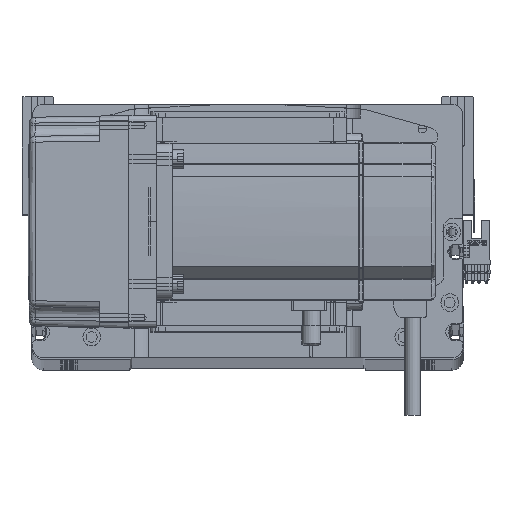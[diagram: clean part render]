
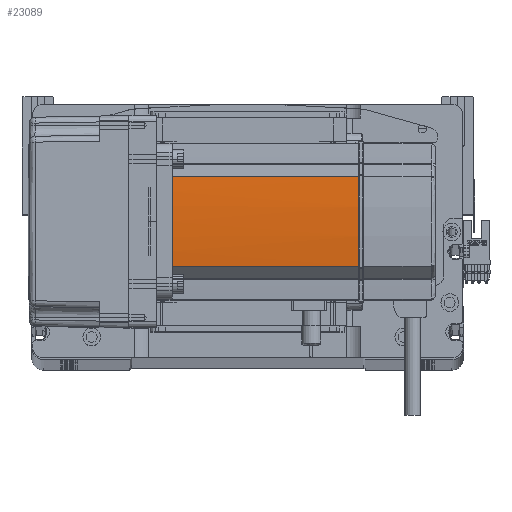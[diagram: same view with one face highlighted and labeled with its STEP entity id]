
A CAD part, top view. The second image highlights one B-rep face of the part: STEP entity #23089.
In plain terms, the highlighted cylindrical face has radius 270 mm (diameter 540 mm), a partial arc.
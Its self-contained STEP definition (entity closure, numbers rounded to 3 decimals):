
#2116 = DIRECTION ( 'NONE',  ( -1., 0., 0. ) ) ;
#3596 = VERTEX_POINT ( 'NONE', #14195 ) ;
#6409 = ORIENTED_EDGE ( 'NONE', *, *, #51378, .F. ) ;
#6634 = EDGE_CURVE ( 'NONE', #25247, #3596, #20497, .T. ) ;
#10401 = CARTESIAN_POINT ( 'NONE',  ( -230., 0., 58. ) ) ;
#11770 = CARTESIAN_POINT ( 'NONE',  ( -230., 0., 134. ) ) ;
#12646 = VECTOR ( 'NONE', #44096, 1000. ) ;
#13626 = CIRCLE ( 'NONE', #27089, 270. ) ;
#13705 = CARTESIAN_POINT ( 'NONE',  ( 39.042, 22.724, 39. ) ) ;
#14195 = CARTESIAN_POINT ( 'NONE',  ( 39.042, -22.724, 39. ) ) ;
#15477 = AXIS2_PLACEMENT_3D ( 'NONE', #27135, #45392, #54719 ) ;
#15613 = EDGE_CURVE ( 'NONE', #36621, #58923, #31582, .T. ) ;
#15827 = ORIENTED_EDGE ( 'NONE', *, *, #38547, .F. ) ;
#16579 = CARTESIAN_POINT ( 'NONE',  ( 40., 0.042, 134. ) ) ;
#17663 = CARTESIAN_POINT ( 'NONE',  ( 40., -0.127, 134. ) ) ;
#19460 = VECTOR ( 'NONE', #25851, 1000. ) ;
#20497 = LINE ( 'NONE', #39174, #12646 ) ;
#21168 = CARTESIAN_POINT ( 'NONE',  ( 40., 0.127, 134. ) ) ;
#21174 = AXIS2_PLACEMENT_3D ( 'NONE', #10401, #28683, #2116 ) ;
#22380 = EDGE_LOOP ( 'NONE', ( #54868, #15827, #47456, #37724, #6409, #34754 ) ) ;
#22398 = CARTESIAN_POINT ( 'NONE',  ( 39.042, -22.724, 134. ) ) ;
#23089 = ADVANCED_FACE ( 'NONE', ( #31974 ), #42585, .T. ) ;
#23459 = VERTEX_POINT ( 'NONE', #27192 ) ;
#24941 = CIRCLE ( 'NONE', #15477, 270. ) ;
#25247 = VERTEX_POINT ( 'NONE', #22398 ) ;
#25851 = DIRECTION ( 'NONE',  ( 0., 0., 1. ) ) ;
#27089 = AXIS2_PLACEMENT_3D ( 'NONE', #29988, #39176, #53405 ) ;
#27135 = CARTESIAN_POINT ( 'NONE',  ( -230., 0., 39. ) ) ;
#27192 = CARTESIAN_POINT ( 'NONE',  ( 40., 0.127, 134. ) ) ;
#28683 = DIRECTION ( 'NONE',  ( 0., 0., -1. ) ) ;
#29711 = CARTESIAN_POINT ( 'NONE',  ( 40., -0.042, 134. ) ) ;
#29988 = CARTESIAN_POINT ( 'NONE',  ( -230., 0., 134. ) ) ;
#31582 = LINE ( 'NONE', #34786, #19460 ) ;
#31974 = FACE_OUTER_BOUND ( 'NONE', #22380, .T. ) ;
#34754 = ORIENTED_EDGE ( 'NONE', *, *, #36452, .T. ) ;
#34786 = CARTESIAN_POINT ( 'NONE',  ( 39.042, 22.724, 58. ) ) ;
#35438 = DIRECTION ( 'NONE',  ( -1., 0., 0. ) ) ;
#36452 = EDGE_CURVE ( 'NONE', #48040, #25247, #13626, .T. ) ;
#36621 = VERTEX_POINT ( 'NONE', #13705 ) ;
#36854 = AXIS2_PLACEMENT_3D ( 'NONE', #11770, #49312, #35438 ) ;
#37688 = CIRCLE ( 'NONE', #36854, 270. ) ;
#37724 = ORIENTED_EDGE ( 'NONE', *, *, #38827, .T. ) ;
#38547 = EDGE_CURVE ( 'NONE', #36621, #3596, #24941, .T. ) ;
#38827 = EDGE_CURVE ( 'NONE', #58923, #23459, #37688, .T. ) ;
#39174 = CARTESIAN_POINT ( 'NONE',  ( 39.042, -22.724, 58. ) ) ;
#39176 = DIRECTION ( 'NONE',  ( 0., 0., -1. ) ) ;
#42529 = B_SPLINE_CURVE_WITH_KNOTS ( 'NONE', 3,
 ( #43817, #29711, #16579, #21168 ),
 .UNSPECIFIED., .F., .F.,
 ( 4, 4 ),
 ( 0., 1. ),
 .UNSPECIFIED. ) ;
#42585 = CYLINDRICAL_SURFACE ( 'NONE', #21174, 270. ) ;
#43817 = CARTESIAN_POINT ( 'NONE',  ( 40., -0.127, 134. ) ) ;
#44096 = DIRECTION ( 'NONE',  ( 0., 0., -1. ) ) ;
#45392 = DIRECTION ( 'NONE',  ( 0., 0., -1. ) ) ;
#47456 = ORIENTED_EDGE ( 'NONE', *, *, #15613, .T. ) ;
#47562 = CARTESIAN_POINT ( 'NONE',  ( 39.042, 22.724, 134. ) ) ;
#48040 = VERTEX_POINT ( 'NONE', #17663 ) ;
#49312 = DIRECTION ( 'NONE',  ( 0., 0., -1. ) ) ;
#51378 = EDGE_CURVE ( 'NONE', #48040, #23459, #42529, .T. ) ;
#53405 = DIRECTION ( 'NONE',  ( -1., 0., 0. ) ) ;
#54719 = DIRECTION ( 'NONE',  ( -1., 0., 0. ) ) ;
#54868 = ORIENTED_EDGE ( 'NONE', *, *, #6634, .T. ) ;
#58923 = VERTEX_POINT ( 'NONE', #47562 ) ;
